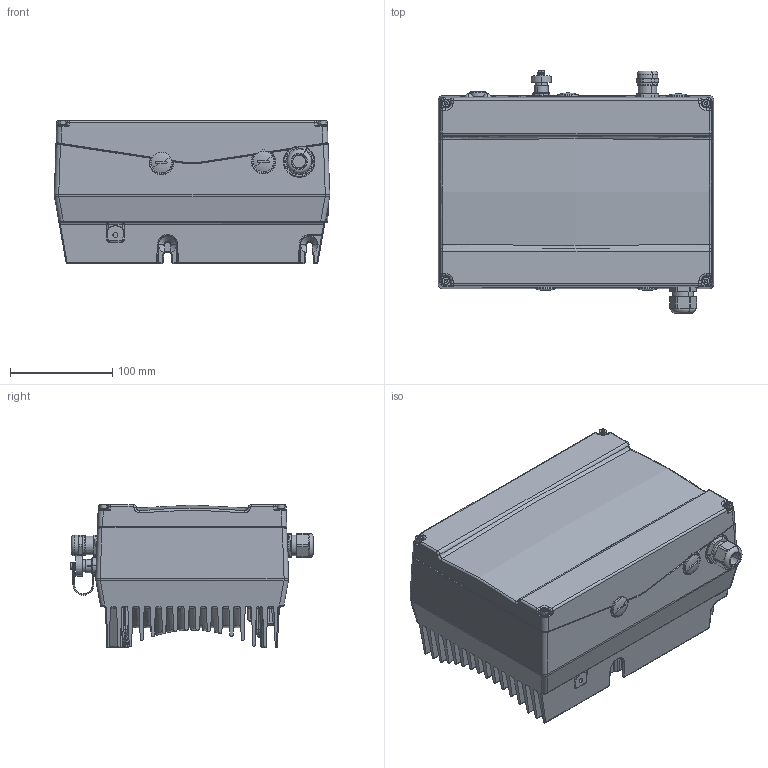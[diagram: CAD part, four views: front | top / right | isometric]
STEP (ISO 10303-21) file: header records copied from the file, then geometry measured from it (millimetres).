
FILE_DESCRIPTION(('CATIA V5 STEP 214'),'2;1');
FILE_NAME('C:\Temp\ddxv6\123204\@Drive BG-B INTERNETDATEN 03.12.10.stp','2010-12-06T17:03:25+00:00',('Schaefer EPA'),('EPA GmbH'),'CATIA Version 5 Release 19 SP 8 (IN-10)','CATIA V5 STEP AP214','none');
FILE_SCHEMA(('AUTOMOTIVE_DESIGN { 1 0 10303 214 1 1 1 1 }'));
Length unit declared in the file: millimetre
Products named in the file (1): 10080920-1-0001A_AllCATPart
Bounding box: 269.93 x 237.3 x 140.2 mm (x, y, z)
Volume: 5791123 mm3; surface area: 512107.1 mm2
Topology: 34 solids, 37 shells, 3875 faces, 9722 edges, 6021 vertices
Faces by surface type: plane 1708, cylinder 1018, bspline 544, torus 292, cone 216, extrusion 66, sphere 31
Entity records: 154220 total; most frequent: CARTESIAN_POINT 73127, ORIENTED_EDGE 19300, DIRECTION 11716, EDGE_CURVE 9656, VERTEX_POINT 6021, AXIS2_PLACEMENT_3D 4998, VECTOR 4128, EDGE_LOOP 4095
